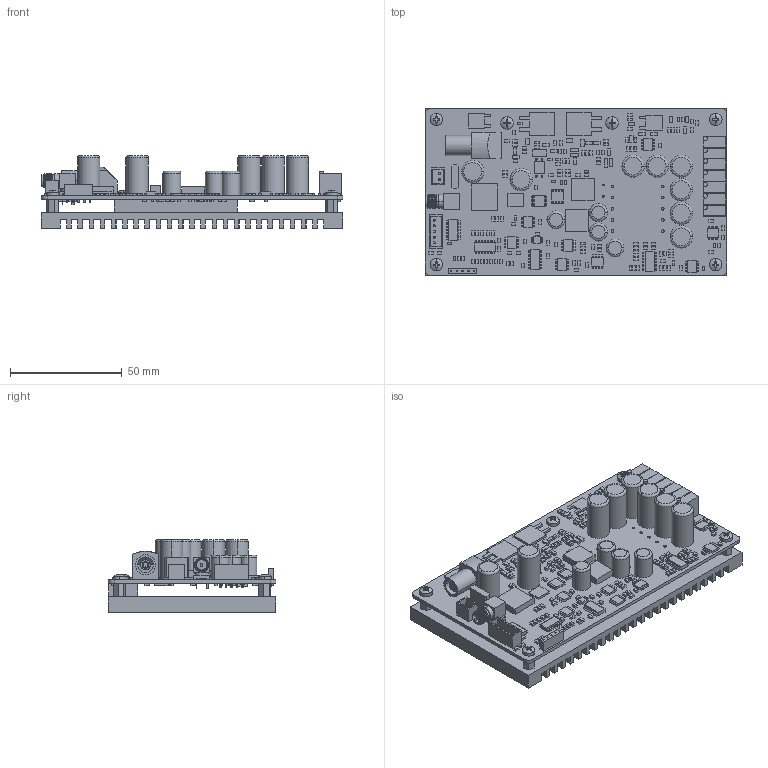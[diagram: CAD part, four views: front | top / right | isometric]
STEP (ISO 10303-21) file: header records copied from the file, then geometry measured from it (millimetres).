
FILE_DESCRIPTION (( 'STEP AP203' ), '1' );
FILE_NAME ('E80.D1S-I.STEP', '2025-07-16T01:57:43', ( 'China' ), ( 'Home' ), 'SwSTEP 2.0', 'SolidWorks 2016', '' );
FILE_SCHEMA (( 'CONFIG_CONTROL_DESIGN' ));
Products named in the file (1): E80.D1S-I
Bounding box: 135.07 x 75.13 x 32.6 mm (x, y, z)
Surface area: 75874.9 mm2 (no closed solid volume)
Topology: 0 solids, 416 shells, 2242 faces, 6203 edges, 4383 vertices
Faces by surface type: plane 1980, cylinder 218, torus 24, sphere 12, cone 6, bspline 2
Entity records: 69879 total; most frequent: CARTESIAN_POINT 13790, DIRECTION 11309, ORIENTED_EDGE 9884, EDGE_CURVE 6203, LINE 5325, VECTOR 5325, VERTEX_POINT 4383, AXIS2_PLACEMENT_3D 2992
